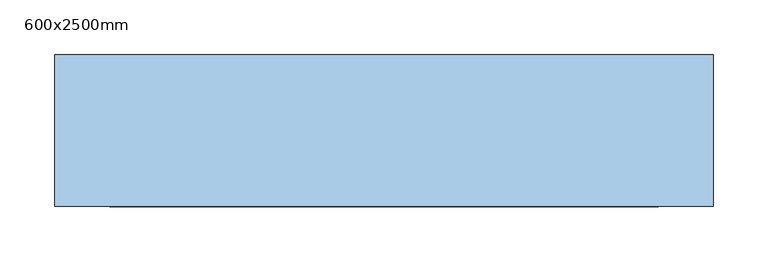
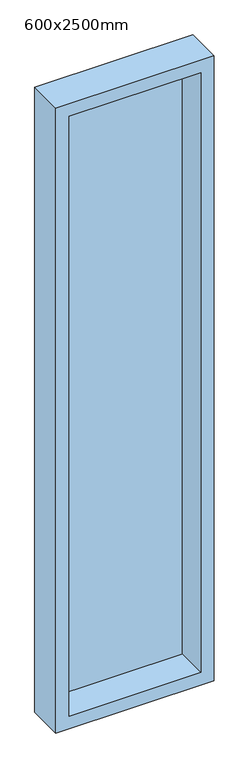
"""IFC4 building model written with IfcOpenShell, lengths in millimetres: window geometry, 单扇窗 : 600x2500mm."""

from ifc_helpers import new_model, si_unit, frame, origin, place, context, project, spatial, polyline, outline, extrude, source, transform, mapped, element, save


def window_600x2500mm_82114602(model_context):
    return source(origin(), model_context, "Body", "SweptSolid", [
        extrude(outline(polyline([(2500.0, 261.9), (2500.0, -338.1), (0.0, -338.1), (0.0, 261.9), (2500.0, 261.9)]), holes=[polyline([(2450.0, 211.9), (50.0, 211.9), (50.0, -288.1), (2450.0, -288.1), (2450.0, 211.9)])]), frame((0.0, -69.0, 0.0), z_axis=(0.0, 1.0, 0.0), x_axis=(0.0, 0.0, 1.0)), (0.0, 0.0, 1.0), 138.0),
        extrude(outline(polyline([(211.9, 52.5), (-288.1, 52.5), (-288.1, 57.5), (211.9, 57.5), (211.9, 52.5)])), frame((0.0, 0.0, 50.0), z_axis=(0.0, 0.0, 1.0), x_axis=(1.0, 0.0, 0.0)), (0.0, 0.0, 1.0), 2400.0),
    ])


if __name__ == "__main__":
    model = new_model("IFC4")
    model_context = context("Model", 3, world=origin())
    ifc_project = project(units=[si_unit("LENGTHUNIT", "METRE", prefix="MILLI")], contexts=[model_context])
    site = spatial("IfcSite", under=ifc_project)
    building = spatial("IfcBuilding", under=site)
    placement = place(None, origin())
    window_600x2500mm_shape = window_600x2500mm_82114602(model_context)
    element("IfcWindow", 1, ObjectType="单扇窗 : 600x2500mm", at=placement, inside=building, context=model_context, shape_type="MappedRepresentation", body=[
        mapped(window_600x2500mm_shape, transform((0.0, 0.0, 0.0), x_axis=(1.0, 0.0, 0.0), y_axis=(0.0, 1.0, 0.0), z_axis=(0.0, 0.0, 1.0))),
    ])
    save(model, "model.ifc")
